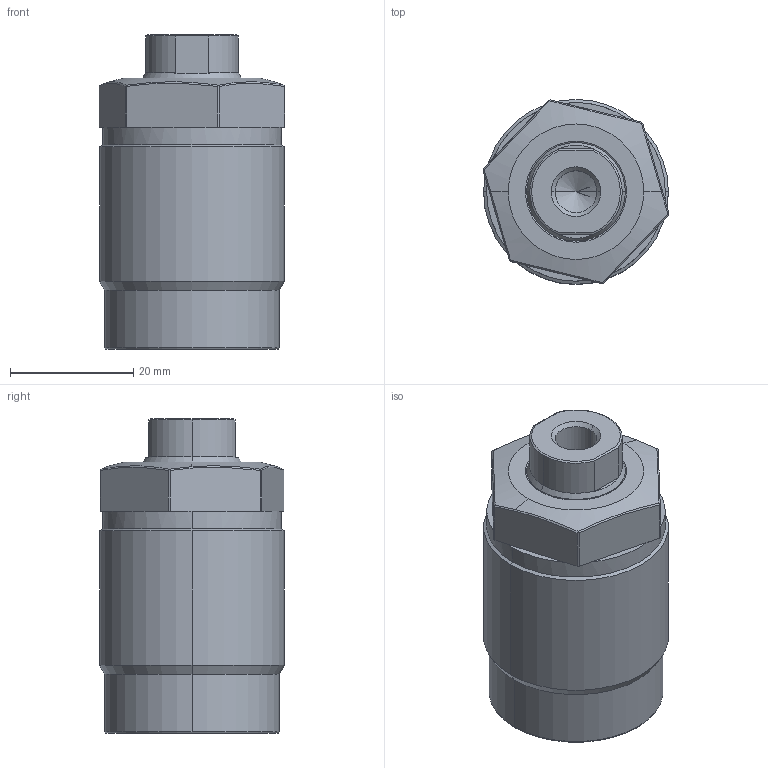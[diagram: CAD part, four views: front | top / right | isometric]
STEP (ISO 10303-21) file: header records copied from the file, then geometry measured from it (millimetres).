
FILE_DESCRIPTION (( 'STEP AP214' ), '1' );
FILE_NAME ('TO3C-M303-M.STEP', '2020-07-10T03:14:49', ( '' ), ( '' ), 'SwSTEP 2.0', 'SolidWorks 2019', '' );
FILE_SCHEMA (( 'AUTOMOTIVE_DESIGN' ));
Length unit declared in the file: millimetre
Products named in the file (3): TO3C-M303-M-BODY; TO3C-M303-M-PLUNGER; TO3C-M303-M
Assembly tree (2 placements, depth 2):
  TO3C-M303-M
    TO3C-M303-M-BODY
    TO3C-M303-M-PLUNGER
Bounding box: 30.17 x 30 x 51 mm (x, y, z)
Volume: 29081.1 mm3; surface area: 9838.5 mm2
Topology: 2 solids, 2 shells, 88 faces, 200 edges, 119 vertices
Faces by surface type: plane 38, cone 23, cylinder 21, bspline 6
Entity records: 3446 total; most frequent: CARTESIAN_POINT 1378, DIRECTION 404, ORIENTED_EDGE 396, EDGE_CURVE 198, AXIS2_PLACEMENT_3D 159, VERTEX_POINT 119, EDGE_LOOP 93, FACE_OUTER_BOUND 88
